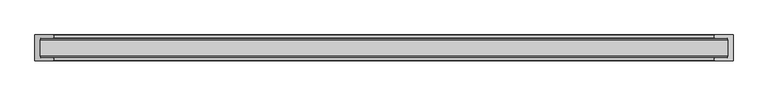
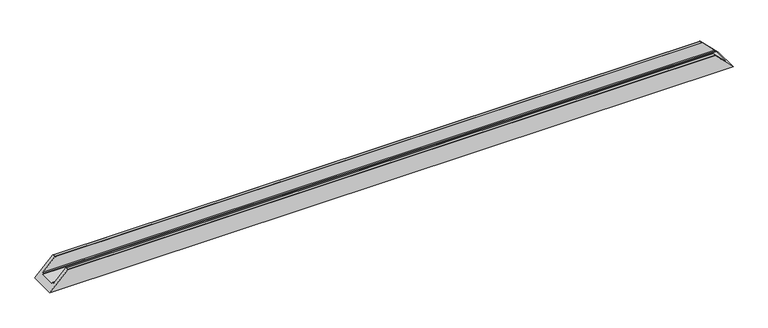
"""IFC4 building model written with IfcOpenShell, lengths in millimetres: proxy geometry, Weiku - Montante - Caixilho único 02.3.02.403 : Weiku - Montante - Caixilho único 02.3.02.403."""

from ifc_helpers import new_model, si_unit, frame, origin, place, context, project, spatial, ellipse_curve, source, transform, mapped, element, save
from ifc_brep_helpers import plane_surface, cylinder_surface, advanced_brep


def generic_models_09efe5b2(model_context):
    return source(origin(), model_context, "Body", "AdvancedBrep", [
        advanced_brep(
        [(-1038.2, 9.8, 18.2), (-1000.5, 9.8, 55.9), (1000.5, 9.8, 55.9), (1038.2, 9.8, 18.2), (-1040.7000079, 63.85, 15.6999921), (-1040.7000079, 15.05, 15.6999921), (1040.7000079, 15.05, 15.6999921), (1040.7000079, 63.85, 15.6999921), (-1056.4, 78.9, 0.0), (1056.4, 78.9, 0.0), (1056.4, 0.0, 0.0), (-1056.4, 0.0, 0.0), (1000.5, 0.0, 55.9), (-1000.5, 0.0, 55.9), (-1000.0, 9.3, 56.4), (-1000.0, 0.5, 56.4), (1000.0, 0.5, 56.4), (1000.0, 9.3, 56.4), (-1038.2, 15.05, 18.2), (1038.2, 15.05, 18.2), (-1038.2, 63.85, 18.2), (1038.2, 63.85, 18.2), (-1038.2, 69.1, 18.2), (1038.2, 69.1, 18.2), (-1000.5, 69.1, 55.9), (1000.5, 69.1, 55.9), (-1000.0, 78.4, 56.4), (-1000.0, 69.6, 56.4), (1000.0, 69.6, 56.4), (1000.0, 78.4, 56.4), (-1000.5, 78.9, 55.9), (1000.5, 78.9, 55.9)],
        [
            (0, 1),
            (1, 2),
            (2, 3),
            (3, 0),
            (4, 5),
            (5, 6),
            (6, 7),
            (7, 4),
            (8, 9),
            (9, 10),
            (10, 11),
            (11, 8),
            (10, 12),
            (12, 13),
            (13, 11),
            (14, 15),
            (15, 16),
            (16, 17),
            (17, 14),
            (18, 0),
            (3, 19),
            (19, 18),
            (5, 18),
            (19, 6),
            (15, 13, ellipse_curve(frame((-1000.5, 0.5, 55.9), z_axis=(0.7071067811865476, 0.0, -0.7071067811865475), x_axis=(-0.7071067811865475, 0.0, -0.7071067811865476)), 0.7071068, 0.5)),
            (12, 16, ellipse_curve(frame((1000.5, 0.5, 55.9), z_axis=(-0.7071067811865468, 0.0, -0.7071067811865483), x_axis=(-0.7071067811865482, 0.0, 0.7071067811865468)), 0.7071068, 0.5)),
            (20, 4),
            (7, 21),
            (21, 20),
            (22, 20),
            (21, 23),
            (23, 22),
            (24, 22),
            (23, 25),
            (25, 24),
            (26, 27),
            (27, 28),
            (28, 29),
            (29, 26),
            (30, 26, ellipse_curve(frame((-1000.5, 78.4, 55.9), z_axis=(0.7071067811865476, 0.0, -0.7071067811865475), x_axis=(-0.7071067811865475, 0.0, -0.7071067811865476)), 0.7071068, 0.5)),
            (29, 31, ellipse_curve(frame((1000.5, 78.4, 55.9), z_axis=(-0.7071067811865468, 0.0, -0.7071067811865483), x_axis=(-0.7071067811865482, 0.0, 0.7071067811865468)), 0.7071068, 0.5)),
            (31, 30),
            (8, 30),
            (31, 9),
            (1, 14, ellipse_curve(frame((-1000.5, 9.3, 55.9), z_axis=(0.7071067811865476, 0.0, -0.7071067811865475), x_axis=(-0.7071067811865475, 0.0, -0.7071067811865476)), 0.7071068, 0.5)),
            (17, 2, ellipse_curve(frame((1000.5, 9.3, 55.9), z_axis=(-0.7071067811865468, 0.0, -0.7071067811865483), x_axis=(-0.7071067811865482, 0.0, 0.7071067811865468)), 0.7071068, 0.5)),
            (27, 24, ellipse_curve(frame((-1000.5, 69.6, 55.9), z_axis=(0.7071067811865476, 0.0, -0.7071067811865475), x_axis=(-0.7071067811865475, 0.0, -0.7071067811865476)), 0.7071068, 0.5)),
            (25, 28, ellipse_curve(frame((1000.5, 69.6, 55.9), z_axis=(-0.7071067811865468, 0.0, -0.7071067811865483), x_axis=(-0.7071067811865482, 0.0, 0.7071067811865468)), 0.7071068, 0.5)),
        ],
        [
            plane_surface(frame((-1056.4, 9.8, 55.9), z_axis=(0.0, 1.0, 0.0), x_axis=(1.0, 0.0, 0.0))),
            plane_surface(frame((-1056.4, 15.05, 15.6999921), z_axis=(0.0, 0.0, 1.0), x_axis=(1.0, 0.0, 0.0))),
            plane_surface(frame((-1056.4, 78.9, 0.0), z_axis=(0.0, 0.0, -1.0), x_axis=(1.0, 0.0, 0.0))),
            plane_surface(frame((-1056.4, 0.0, 0.0), z_axis=(0.0, -1.0, 0.0), x_axis=(1.0, 0.0, 0.0))),
            plane_surface(frame((-1056.4, 0.5, 56.4), z_axis=(0.0, 0.0, 1.0), x_axis=(1.0, 0.0, 0.0))),
            plane_surface(frame((-1056.4, 9.8, 18.2), z_axis=(0.0, 0.0, 1.0), x_axis=(1.0, 0.0, 0.0))),
            plane_surface(frame((-1056.4, 15.05, 18.2), z_axis=(0.0, 1.0, 0.0), x_axis=(1.0, 0.0, 0.0))),
            cylinder_surface(frame((-1056.4, 0.5, 55.9), z_axis=(-1.0, 0.0, 0.0), x_axis=(0.0, 1.0, 0.0)), 0.5),
            plane_surface(frame((-1056.4, 63.85, 15.6999921), z_axis=(0.0, -1.0, 0.0), x_axis=(1.0, 0.0, 0.0))),
            plane_surface(frame((-1056.4, 63.85, 18.2), z_axis=(0.0, 0.0, 1.0), x_axis=(1.0, 0.0, 0.0))),
            plane_surface(frame((-1056.4, 69.1, 18.2), z_axis=(0.0, -1.0, 0.0), x_axis=(1.0, 0.0, 0.0))),
            plane_surface(frame((-1056.4, 69.6, 56.4), z_axis=(0.0, 0.0, 1.0), x_axis=(1.0, 0.0, 0.0))),
            cylinder_surface(frame((-1056.4, 78.4, 55.9), z_axis=(-1.0, 0.0, 0.0), x_axis=(0.0, -1.0, 0.0)), 0.5),
            plane_surface(frame((-1056.4, 78.9, 55.9), z_axis=(0.0, 1.0, 0.0), x_axis=(1.0, 0.0, 0.0))),
            cylinder_surface(frame((-1056.4, 9.3, 55.9), z_axis=(-1.0, 0.0, 0.0), x_axis=(0.0, 1.0, 0.0)), 0.5),
            cylinder_surface(frame((-1056.4, 69.6, 55.9), z_axis=(-1.0, 0.0, 0.0), x_axis=(0.0, 1.0, 0.0)), 0.5),
            plane_surface(frame((-1056.4, 0.0, 0.0), z_axis=(-0.7071067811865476, 0.0, 0.7071067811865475), x_axis=(0.0, 1.0, 0.0))),
            plane_surface(frame((996.4, 0.0, 60.0), z_axis=(0.7071067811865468, 0.0, 0.7071067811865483), x_axis=(0.0, 1.0, 0.0))),
        ],
        [
            (0, [[1, 2, 3, 4]]),
            (1, [[5, 6, 7, 8]]),
            (2, [[9, 10, 11, 12]]),
            (3, [[-11, 13, 14, 15]]),
            (4, [[16, 17, 18, 19]]),
            (5, [[20, -4, 21, 22]]),
            (6, [[23, -22, 24, -6]]),
            (7, [[25, -14, 26, -17]]),
            (8, [[27, -8, 28, 29]]),
            (9, [[30, -29, 31, 32]]),
            (10, [[33, -32, 34, 35]]),
            (11, [[36, 37, 38, 39]]),
            (12, [[40, -39, 41, 42]]),
            (13, [[-9, 43, -42, 44]]),
            (14, [[45, -19, 46, -2]]),
            (15, [[47, -35, 48, -37]]),
            (16, [[-1, -20, -23, -5, -27, -30, -33, -47, -36, -40, -43, -12, -15, -25, -16, -45]]),
            (17, [[-3, -46, -18, -26, -13, -10, -44, -41, -38, -48, -34, -31, -28, -7, -24, -21]]),
        ],
    ),
    ])


if __name__ == "__main__":
    model = new_model("IFC4")
    model_context = context("Model", 3, world=origin())
    ifc_project = project(units=[si_unit("LENGTHUNIT", "METRE", prefix="MILLI")], contexts=[model_context])
    site = spatial("IfcSite", under=ifc_project)
    building = spatial("IfcBuilding", under=site)
    placement = place(None, origin())
    generic_models_shape = generic_models_09efe5b2(model_context)
    element("IfcBuildingElementProxy", 1, Name="Weiku - Montante - Caixilho único 02.3.02.403 : Weiku - Montante - Caixilho único 02.3.02.403", ObjectType="Weiku - Montante - Caixilho único 02.3.02.403 : Weiku - Montante - Caixilho único 02.3.02.403", at=placement, inside=building, context=model_context, shape_type="MappedRepresentation", body=[
        mapped(generic_models_shape, transform((0.0, 0.0, 0.0), x_axis=(1.0, 0.0, 0.0), y_axis=(0.0, 1.0, 0.0), z_axis=(0.0, 0.0, 1.0))),
    ])
    save(model, "model.ifc")
